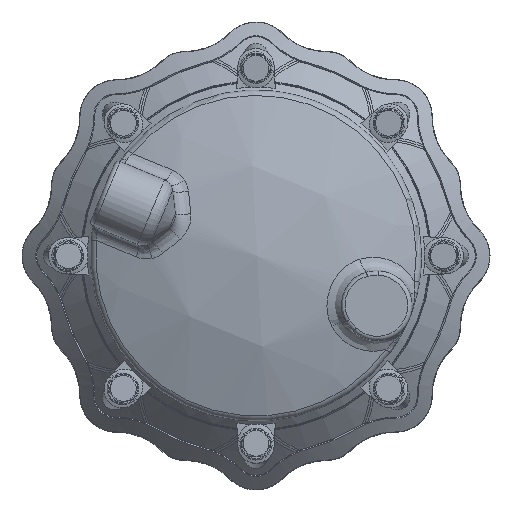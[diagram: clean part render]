
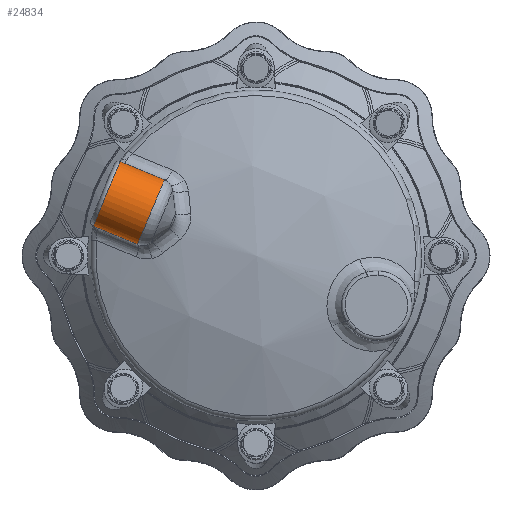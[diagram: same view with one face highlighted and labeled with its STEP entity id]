
A CAD part, top view. The second image highlights one B-rep face of the part: STEP entity #24834.
In plain terms, the highlighted cylindrical face has radius 40.5 mm (diameter 81 mm), a partial arc.
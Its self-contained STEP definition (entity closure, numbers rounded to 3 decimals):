
#831 = CARTESIAN_POINT ( 'NONE',  ( -106.744, 88.052, 40.5 ) ) ;
#3427 = CARTESIAN_POINT ( 'NONE',  ( -158.958, 107.711, 28.499 ) ) ;
#3883 = CARTESIAN_POINT ( 'NONE',  ( -137.742, 13.218, 40.5 ) ) ;
#4402 = CARTESIAN_POINT ( 'NONE',  ( -188.563, 36.237, 28.499 ) ) ;
#4451 = CARTESIAN_POINT ( 'NONE',  ( -151.279, 106.499, 40.5 ) ) ;
#4493 = CARTESIAN_POINT ( 'NONE',  ( -182.276, 31.664, 40.5 ) ) ;
#8398 = B_SPLINE_CURVE_WITH_KNOTS ( 'NONE', 3,
 ( #14296, #14306, #14312, #14313, #14314, #14315, #14316, #14317, #14318, #14319, #14320, #14321 ),
 .UNSPECIFIED., .F., .F.,
 ( 4, 2, 2, 2, 2, 4 ),
 ( 0., 0.002, 0.004, 0.007, 0.011, 0.014 ),
 .UNSPECIFIED. ) ;
#8399 = B_SPLINE_CURVE_WITH_KNOTS ( 'NONE', 3,
 ( #14322, #14323, #14328, #14329, #14330, #14331, #14332, #14333, #14334, #14335, #14336, #14337, #14338, #14339, #14340 ),
 .UNSPECIFIED., .F., .F.,
 ( 4, 2, 2, 2, 2, 1, 2, 4 ),
 ( 0.009, 0.012, 0.016, 0.019, 0.021, 0.022, 0.022, 0.023 ),
 .UNSPECIFIED. ) ;
#8686 = VERTEX_POINT ( 'NONE', #831 ) ;
#14296 = CARTESIAN_POINT ( 'NONE',  ( -151.279, 106.499, 40.5 ) ) ;
#14306 = CARTESIAN_POINT ( 'NONE',  ( -151.578, 106.623, 39.998 ) ) ;
#14311 = CARTESIAN_POINT ( 'NONE',  ( -98.21, 84.517, 40.5 ) ) ;
#14312 = CARTESIAN_POINT ( 'NONE',  ( -151.883, 106.739, 39.493 ) ) ;
#14313 = CARTESIAN_POINT ( 'NONE',  ( -152.495, 106.952, 38.488 ) ) ;
#14314 = CARTESIAN_POINT ( 'NONE',  ( -152.805, 107.05, 37.986 ) ) ;
#14315 = CARTESIAN_POINT ( 'NONE',  ( -153.741, 107.316, 36.48 ) ) ;
#14316 = CARTESIAN_POINT ( 'NONE',  ( -154.377, 107.457, 35.478 ) ) ;
#14317 = CARTESIAN_POINT ( 'NONE',  ( -155.666, 107.665, 33.473 ) ) ;
#14318 = CARTESIAN_POINT ( 'NONE',  ( -156.322, 107.731, 32.468 ) ) ;
#14319 = CARTESIAN_POINT ( 'NONE',  ( -157.637, 107.782, 30.475 ) ) ;
#14320 = CARTESIAN_POINT ( 'NONE',  ( -158.297, 107.768, 29.484 ) ) ;
#14321 = CARTESIAN_POINT ( 'NONE',  ( -158.958, 107.711, 28.499 ) ) ;
#14322 = CARTESIAN_POINT ( 'NONE',  ( -188.563, 36.237, 28.499 ) ) ;
#14323 = CARTESIAN_POINT ( 'NONE',  ( -188.136, 35.73, 29.484 ) ) ;
#14324 = CARTESIAN_POINT ( 'NONE',  ( -173.761, 71.974, 40.5 ) ) ;
#14325 = DIRECTION ( 'NONE',  ( 0.924, -0.383, 0. ) ) ;
#14326 = DIRECTION ( 'NONE',  ( -0.383, -0.924, 0. ) ) ;
#14327 = DIRECTION ( 'NONE',  ( -0.924, 0.383, 0. ) ) ;
#14328 = CARTESIAN_POINT ( 'NONE',  ( -187.68, 35.252, 30.475 ) ) ;
#14329 = CARTESIAN_POINT ( 'NONE',  ( -186.714, 34.359, 32.468 ) ) ;
#14330 = CARTESIAN_POINT ( 'NONE',  ( -186.203, 33.942, 33.473 ) ) ;
#14331 = CARTESIAN_POINT ( 'NONE',  ( -185.144, 33.177, 35.478 ) ) ;
#14332 = CARTESIAN_POINT ( 'NONE',  ( -184.595, 32.828, 36.48 ) ) ;
#14333 = CARTESIAN_POINT ( 'NONE',  ( -183.745, 32.354, 37.986 ) ) ;
#14334 = CARTESIAN_POINT ( 'NONE',  ( -183.457, 32.204, 38.488 ) ) ;
#14335 = CARTESIAN_POINT ( 'NONE',  ( -183.019, 31.992, 39.242 ) ) ;
#14336 = CARTESIAN_POINT ( 'NONE',  ( -182.798, 31.889, 39.619 ) ) ;
#14337 = CARTESIAN_POINT ( 'NONE',  ( -182.575, 31.791, 39.997 ) ) ;
#14338 = CARTESIAN_POINT ( 'NONE',  ( -182.426, 31.727, 40.248 ) ) ;
#14339 = CARTESIAN_POINT ( 'NONE',  ( -182.351, 31.695, 40.375 ) ) ;
#14340 = CARTESIAN_POINT ( 'NONE',  ( -182.276, 31.664, 40.5 ) ) ;
#14341 = CARTESIAN_POINT ( 'NONE',  ( -189.91, 34.827, 40.5 ) ) ;
#14342 = DIRECTION ( 'NONE',  ( 0.924, -0.383, 0. ) ) ;
#14345 = CARTESIAN_POINT ( 'NONE',  ( -122.243, 50.635, 40.5 ) ) ;
#14346 = DIRECTION ( 'NONE',  ( -0.924, 0.383, 0. ) ) ;
#14347 = DIRECTION ( 'NONE',  ( -0.383, -0.924, 0. ) ) ;
#16820 = DIRECTION ( 'NONE',  ( 0.383, 0.924, 0. ) ) ;
#16827 = DIRECTION ( 'NONE',  ( 0.924, -0.383, 0. ) ) ;
#16829 = CARTESIAN_POINT ( 'NONE',  ( 0., 0., 40.5 ) ) ;
#18629 = ORIENTED_EDGE ( 'NONE', *, *, #24613, .T. ) ;
#18631 = ORIENTED_EDGE ( 'NONE', *, *, #24614, .T. ) ;
#18633 = ORIENTED_EDGE ( 'NONE', *, *, #24615, .T. ) ;
#18635 = ORIENTED_EDGE ( 'NONE', *, *, #24616, .T. ) ;
#18637 = ORIENTED_EDGE ( 'NONE', *, *, #24617, .T. ) ;
#18639 = ORIENTED_EDGE ( 'NONE', *, *, #24618, .T. ) ;
#20259 = EDGE_LOOP ( 'NONE', ( #18629, #18631, #18633, #18635, #18637, #18639 ) ) ;
#20985 = CIRCLE ( 'NONE', #21679, 40.5 ) ;
#20986 = CIRCLE ( 'NONE', #21680, 40.5 ) ;
#20987 = LINE ( 'NONE', #14341, #20988 ) ;
#20988 = VECTOR ( 'NONE', #14342, 1000. ) ;
#20989 = LINE ( 'NONE', #14311, #20991 ) ;
#20991 = VECTOR ( 'NONE', #14327, 1000. ) ;
#21167 = FACE_OUTER_BOUND ( 'NONE', #20259, .T. ) ;
#21180 = CYLINDRICAL_SURFACE ( 'NONE', #21771, 40.5 ) ;
#21679 = AXIS2_PLACEMENT_3D ( 'NONE', #14324, #14325, #14326 ) ;
#21680 = AXIS2_PLACEMENT_3D ( 'NONE', #14345, #14346, #14347 ) ;
#21771 = AXIS2_PLACEMENT_3D ( 'NONE', #16829, #16827, #16820 ) ;
#23489 = VERTEX_POINT ( 'NONE', #3427 ) ;
#23778 = VERTEX_POINT ( 'NONE', #3883 ) ;
#24080 = VERTEX_POINT ( 'NONE', #4402 ) ;
#24111 = VERTEX_POINT ( 'NONE', #4451 ) ;
#24137 = VERTEX_POINT ( 'NONE', #4493 ) ;
#24613 = EDGE_CURVE ( 'NONE', #24111, #23489, #8398, .T. ) ;
#24614 = EDGE_CURVE ( 'NONE', #23489, #24080, #20985, .T. ) ;
#24615 = EDGE_CURVE ( 'NONE', #24080, #24137, #8399, .T. ) ;
#24616 = EDGE_CURVE ( 'NONE', #24137, #23778, #20987, .T. ) ;
#24617 = EDGE_CURVE ( 'NONE', #23778, #8686, #20986, .T. ) ;
#24618 = EDGE_CURVE ( 'NONE', #8686, #24111, #20989, .T. ) ;
#24834 = ADVANCED_FACE ( 'NONE', ( #21167 ), #21180, .T. ) ;
